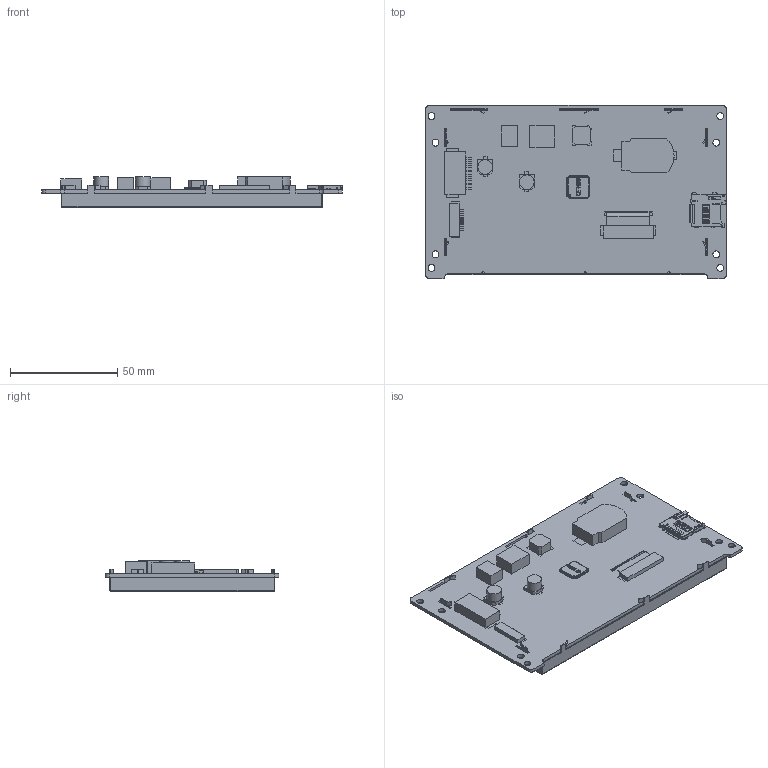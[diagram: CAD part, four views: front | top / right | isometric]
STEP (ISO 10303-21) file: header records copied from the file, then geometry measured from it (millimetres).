
FILE_DESCRIPTION(/* description */ (''),/* implementation_level */ '2;1');
FILE_NAME(/* name */ '',/* time_stamp */ '2021-08-24T10:33:12+08:00',/* author */ (''),/* organization */ (''),/* preprocessor_version */ 'ST-DEVELOPER v11',/* originating_system */ 'SIEMENS PLM Software NX 7.5',/* authorisation */ '');
FILE_SCHEMA (('AP203_CONFIGURATION_CONTROLLED_3D_DESIGN_OF_MECHANICAL_PARTS_AND_ASSEMBLIES_MIM_LF'));
Products named in the file (1): SDWb050T84N
Bounding box: 140 x 80.9 x 14.11 mm (x, y, z)
Volume: 40550.7 mm3; surface area: 55612.1 mm2
Topology: 19 solids, 19 shells, 2372 faces, 6911 edges, 4649 vertices
Faces by surface type: plane 1937, cylinder 427, bspline 7, cone 1
Full cylindrical faces by diameter (mm): 3.2 x8, 6.776 x2
Entity records: 79934 total; most frequent: CARTESIAN_POINT 14308, ORIENTED_EDGE 13606, DIRECTION 12428, EDGE_CURVE 6803, LINE 5970, VECTOR 5970, VERTEX_POINT 4468, AXIS2_PLACEMENT_3D 3229
